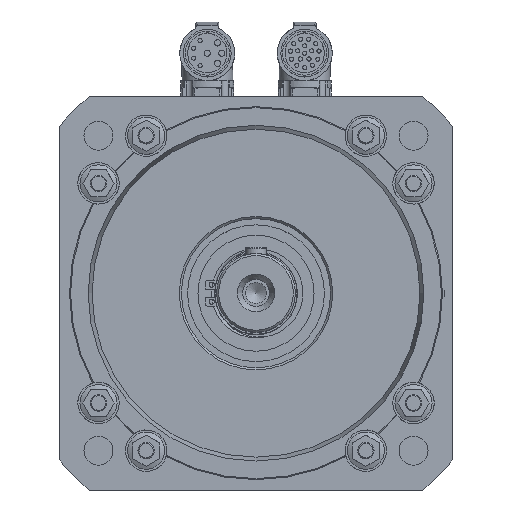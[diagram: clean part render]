
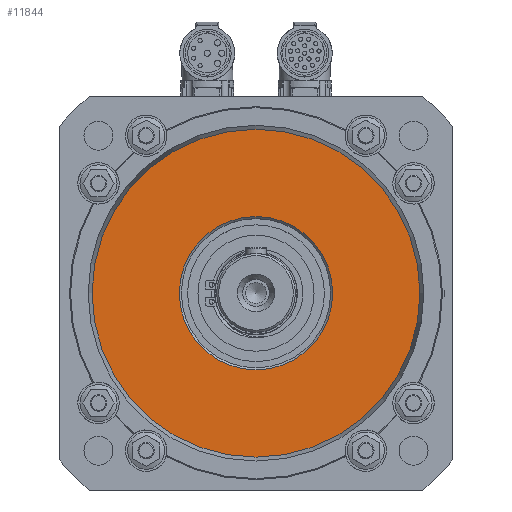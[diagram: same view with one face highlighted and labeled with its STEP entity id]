
A CAD part, top view. The second image highlights one B-rep face of the part: STEP entity #11844.
In plain terms, the highlighted planar face has unit normal (0, 0, 1) as drawn and (0, -1, 0) by its records, which use the part's own axes.
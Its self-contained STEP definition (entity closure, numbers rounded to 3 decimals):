
#11844 = ADVANCED_FACE( '', ( #24181, #24182 ), #24183, .F. );
#24181 = FACE_BOUND( '', #40082, .T. );
#24182 = FACE_OUTER_BOUND( '', #40083, .T. );
#24183 = PLANE( '', #40084 );
#40082 = EDGE_LOOP( '', ( #48198 ) );
#40083 = EDGE_LOOP( '', ( #48199 ) );
#40084 = AXIS2_PLACEMENT_3D( '', #48200, #48201, #48202 );
#48198 = ORIENTED_EDGE( '', *, *, #57715, .T. );
#48199 = ORIENTED_EDGE( '', *, *, #57726, .T. );
#48200 = CARTESIAN_POINT( '', ( 0., -34.896, 79.124 ) );
#48201 = DIRECTION( '', ( 0., 1., 0. ) );
#48202 = DIRECTION( '', ( 0., 0., 1. ) );
#57715 = EDGE_CURVE( '', #82084, #82084, #82085, .T. );
#57726 = EDGE_CURVE( '', #82103, #82103, #82104, .T. );
#82084 = VERTEX_POINT( '', #92530 );
#82085 = CIRCLE( '', #92531, 37. );
#82103 = VERTEX_POINT( '', #92555 );
#82104 = CIRCLE( '', #92556, 79.124 );
#92530 = CARTESIAN_POINT( '', ( 0., -34.896, 37. ) );
#92531 = AXIS2_PLACEMENT_3D( '', #93774, #93775, #93776 );
#92555 = CARTESIAN_POINT( '', ( 0., -34.896, -79.124 ) );
#92556 = AXIS2_PLACEMENT_3D( '', #93798, #93799, #93800 );
#93774 = CARTESIAN_POINT( '', ( 0., -34.896, 0. ) );
#93775 = DIRECTION( '', ( 0., 1., 0. ) );
#93776 = DIRECTION( '', ( 0., 0., 1. ) );
#93798 = CARTESIAN_POINT( '', ( 0., -34.896, 0. ) );
#93799 = DIRECTION( '', ( 0., -1., 0. ) );
#93800 = DIRECTION( '', ( 0., 0., -1. ) );
